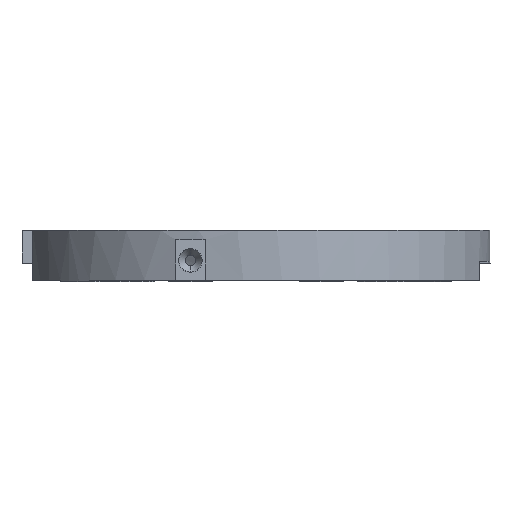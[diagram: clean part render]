
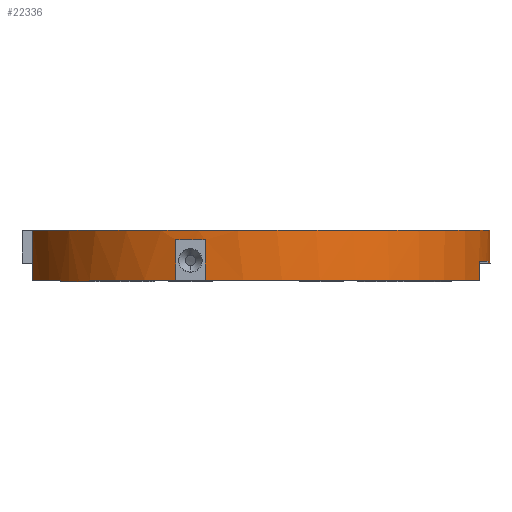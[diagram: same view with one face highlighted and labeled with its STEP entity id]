
A CAD part, left-side view. The second image highlights one B-rep face of the part: STEP entity #22336.
In plain terms, the highlighted cylindrical face has radius 25 mm (diameter 50 mm), a partial arc.
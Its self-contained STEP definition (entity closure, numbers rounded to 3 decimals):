
#9821=CARTESIAN_POINT(' ',(-7.518,23.843,5.3));
#9822=VERTEX_POINT(' ',#9821);
#9836=CARTESIAN_POINT(' ',(0.,0.,5.3));
#9841=DIRECTION(' ',(0.,0.,1.));
#9846=DIRECTION(' ',(-0.301,0.954,0.));
#9851=AXIS2_PLACEMENT_3D(' ',#9836,#9841,#9846);
#9856=CIRCLE('',#9851,25.);
#9861=CARTESIAN_POINT(' ',(1.09,-24.976,5.3));
#9862=VERTEX_POINT(' ',#9861);
#9866=EDGE_CURVE(' ',#9822,#9862,#9856,.T.);
#21711=CARTESIAN_POINT(' ',(-7.518,23.843,0.));
#21712=VERTEX_POINT(' ',#21711);
#21726=CARTESIAN_POINT(' ',(-7.518,23.843,0.));
#21731=DIRECTION(' ',(0.,0.,1.));
#21736=VECTOR(' ',#21731,1.);
#21741=LINE('',#21726,#21736);
#21746=EDGE_CURVE(' ',#21712,#9822,#21741,.T.);
#21771=CARTESIAN_POINT(' ',(0.,0.,22.5));
#21776=DIRECTION(' ',(0.,0.,1.));
#21781=DIRECTION(' ',(-0.301,0.954,0.));
#21786=AXIS2_PLACEMENT_3D(' ',#21771,#21776,#21781);
#21791=CYLINDRICAL_SURFACE(' ',#21786,25.);
#21796=CARTESIAN_POINT(' ',(-7.518,-23.843,2.));
#21801=DIRECTION(' ',(0.,0.,-1.));
#21806=VECTOR(' ',#21801,1.);
#21811=LINE('',#21796,#21806);
#21816=CARTESIAN_POINT(' ',(-7.518,-23.843,2.));
#21817=VERTEX_POINT(' ',#21816);
#21821=CARTESIAN_POINT(' ',(-7.518,-23.843,0.));
#21822=VERTEX_POINT(' ',#21821);
#21826=EDGE_CURVE(' ',#21817,#21822,#21811,.T.);
#21831=ORIENTED_EDGE(' ',*,*,#21826,.F.);
#21836=CARTESIAN_POINT(' ',(0.,0.,2.));
#21841=DIRECTION(' ',(0.,0.,1.));
#21846=DIRECTION(' ',(-0.301,-0.954,0.));
#21851=AXIS2_PLACEMENT_3D(' ',#21836,#21841,#21846);
#21856=CIRCLE('',#21851,25.);
#21861=CARTESIAN_POINT(' ',(-3.263,-24.786,2.));
#21862=VERTEX_POINT(' ',#21861);
#21866=EDGE_CURVE(' ',#21817,#21862,#21856,.T.);
#21871=ORIENTED_EDGE(' ',*,*,#21866,.T.);
#21876=CARTESIAN_POINT(' ',(-3.263,-24.786,2.));
#21881=DIRECTION(' ',(0.,0.,-1.));
#21886=VECTOR(' ',#21881,1.);
#21891=LINE('',#21876,#21886);
#21896=CARTESIAN_POINT(' ',(-3.263,-24.786,1.8));
#21897=VERTEX_POINT(' ',#21896);
#21901=EDGE_CURVE(' ',#21862,#21897,#21891,.T.);
#21906=ORIENTED_EDGE(' ',*,*,#21901,.T.);
#21911=CARTESIAN_POINT(' ',(0.,0.,1.8));
#21916=DIRECTION(' ',(0.,0.,-1.));
#21921=DIRECTION(' ',(0.044,-0.999,0.));
#21926=AXIS2_PLACEMENT_3D(' ',#21911,#21916,#21921);
#21931=CIRCLE('',#21926,25.);
#21936=CARTESIAN_POINT(' ',(1.09,-24.976,1.8));
#21937=VERTEX_POINT(' ',#21936);
#21941=EDGE_CURVE(' ',#21937,#21897,#21931,.T.);
#21946=ORIENTED_EDGE(' ',*,*,#21941,.F.);
#21951=CARTESIAN_POINT(' ',(1.09,-24.976,5.3));
#21956=DIRECTION(' ',(0.,0.,-1.));
#21961=VECTOR(' ',#21956,1.);
#21966=LINE('',#21951,#21961);
#21971=EDGE_CURVE(' ',#9862,#21937,#21966,.T.);
#21976=ORIENTED_EDGE(' ',*,*,#21971,.F.);
#21981=ORIENTED_EDGE(' ',*,*,#9866,.F.);
#21986=ORIENTED_EDGE(' ',*,*,#21746,.F.);
#21991=CARTESIAN_POINT(' ',(0.,0.,0.));
#21996=DIRECTION(' ',(-0.,0.,1.));
#22001=DIRECTION(' ',(-0.301,0.954,0.));
#22006=AXIS2_PLACEMENT_3D(' ',#21991,#21996,#22001);
#22011=CIRCLE('',#22006,25.);
#22016=CARTESIAN_POINT(' ',(-13.711,20.905,0.));
#22017=VERTEX_POINT(' ',#22016);
#22021=EDGE_CURVE(' ',#21712,#22017,#22011,.T.);
#22026=ORIENTED_EDGE(' ',*,*,#22021,.T.);
#22031=CARTESIAN_POINT(' ',(-13.711,20.905,-0.2));
#22036=DIRECTION(' ',(0.,0.,1.));
#22041=VECTOR(' ',#22036,1.);
#22046=LINE('',#22031,#22041);
#22051=CARTESIAN_POINT(' ',(-13.711,20.905,-0.2));
#22052=VERTEX_POINT(' ',#22051);
#22056=EDGE_CURVE(' ',#22052,#22017,#22046,.T.);
#22061=ORIENTED_EDGE(' ',*,*,#22056,.F.);
#22066=CARTESIAN_POINT(' ',(0.,0.,-0.2));
#22071=DIRECTION(' ',(0.,0.,-1.));
#22076=DIRECTION(' ',(-0.704,0.71,0.));
#22081=AXIS2_PLACEMENT_3D(' ',#22066,#22071,#22076);
#22086=CIRCLE('',#22081,25.);
#22091=CARTESIAN_POINT(' ',(-17.597,17.758,-0.2));
#22092=VERTEX_POINT(' ',#22091);
#22096=EDGE_CURVE(' ',#22092,#22052,#22086,.T.);
#22101=ORIENTED_EDGE(' ',*,*,#22096,.F.);
#22106=CARTESIAN_POINT(' ',(-17.597,17.758,-0.2));
#22111=DIRECTION(' ',(0.,0.,1.));
#22116=VECTOR(' ',#22111,1.);
#22121=LINE('',#22106,#22116);
#22126=CARTESIAN_POINT(' ',(-17.597,17.758,0.));
#22127=VERTEX_POINT(' ',#22126);
#22131=EDGE_CURVE(' ',#22092,#22127,#22121,.T.);
#22136=ORIENTED_EDGE(' ',*,*,#22131,.T.);
#22141=CARTESIAN_POINT(' ',(0.,0.,0.));
#22146=DIRECTION(' ',(0.,0.,1.));
#22151=DIRECTION(' ',(-0.704,0.71,0.));
#22156=AXIS2_PLACEMENT_3D(' ',#22141,#22146,#22151);
#22161=CIRCLE('',#22156,25.);
#22166=CARTESIAN_POINT(' ',(-23.483,8.575,0.));
#22167=VERTEX_POINT(' ',#22166);
#22171=EDGE_CURVE(' ',#22127,#22167,#22161,.T.);
#22176=ORIENTED_EDGE(' ',*,*,#22171,.T.);
#22181=CARTESIAN_POINT(' ',(-23.483,8.575,0.));
#22186=DIRECTION(' ',(0.,0.,1.));
#22191=VECTOR(' ',#22186,1.);
#22196=LINE('',#22181,#22191);
#22201=CARTESIAN_POINT(' ',(-23.483,8.575,4.3));
#22202=VERTEX_POINT(' ',#22201);
#22206=EDGE_CURVE(' ',#22167,#22202,#22196,.T.);
#22211=ORIENTED_EDGE(' ',*,*,#22206,.T.);
#22216=CARTESIAN_POINT(' ',(0.,0.,4.3));
#22221=DIRECTION(' ',(0.,0.,1.));
#22226=DIRECTION(' ',(-0.939,0.343,0.));
#22231=AXIS2_PLACEMENT_3D(' ',#22216,#22221,#22226);
#22236=CIRCLE('',#22231,25.);
#22241=CARTESIAN_POINT(' ',(-24.404,5.425,4.3));
#22242=VERTEX_POINT(' ',#22241);
#22246=EDGE_CURVE(' ',#22202,#22242,#22236,.T.);
#22251=ORIENTED_EDGE(' ',*,*,#22246,.T.);
#22256=CARTESIAN_POINT(' ',(-24.404,5.425,0.));
#22261=DIRECTION(' ',(0.,0.,1.));
#22266=VECTOR(' ',#22261,1.);
#22271=LINE('',#22256,#22266);
#22276=CARTESIAN_POINT(' ',(-24.404,5.425,0.));
#22277=VERTEX_POINT(' ',#22276);
#22281=EDGE_CURVE(' ',#22277,#22242,#22271,.T.);
#22286=ORIENTED_EDGE(' ',*,*,#22281,.F.);
#22291=CARTESIAN_POINT(' ',(0.,0.,0.));
#22296=DIRECTION(' ',(0.,0.,1.));
#22301=DIRECTION(' ',(-0.976,0.217,0.));
#22306=AXIS2_PLACEMENT_3D(' ',#22291,#22296,#22301);
#22311=CIRCLE('',#22306,25.);
#22316=EDGE_CURVE(' ',#22277,#21822,#22311,.T.);
#22321=ORIENTED_EDGE(' ',*,*,#22316,.T.);
#22326=EDGE_LOOP(' ',(#21831,#21871,#21906,#21946,#21976,#21981,#21986,#22026,#22061,#22101,#22136,#22176,#22211,#22251,#22286,#22321));
#22331=FACE_OUTER_BOUND(' ',#22326,.T.);
#22336=ADVANCED_FACE('',(#22331),#21791,.T.);
